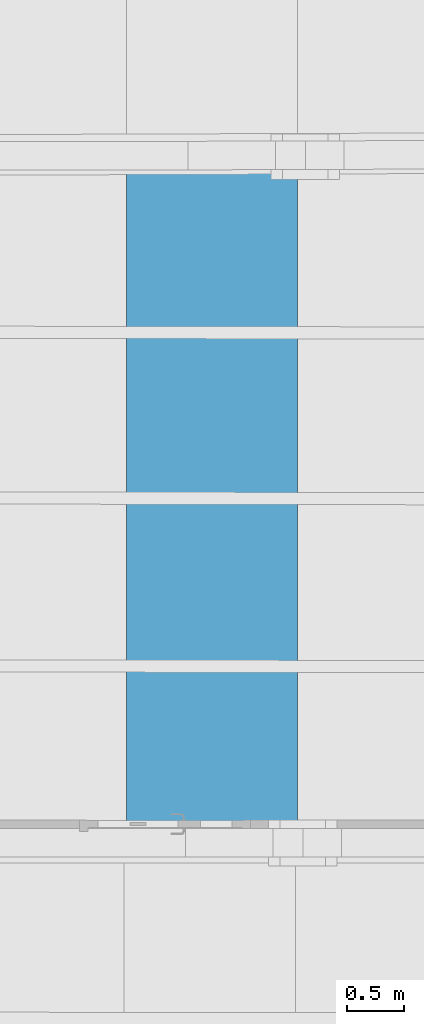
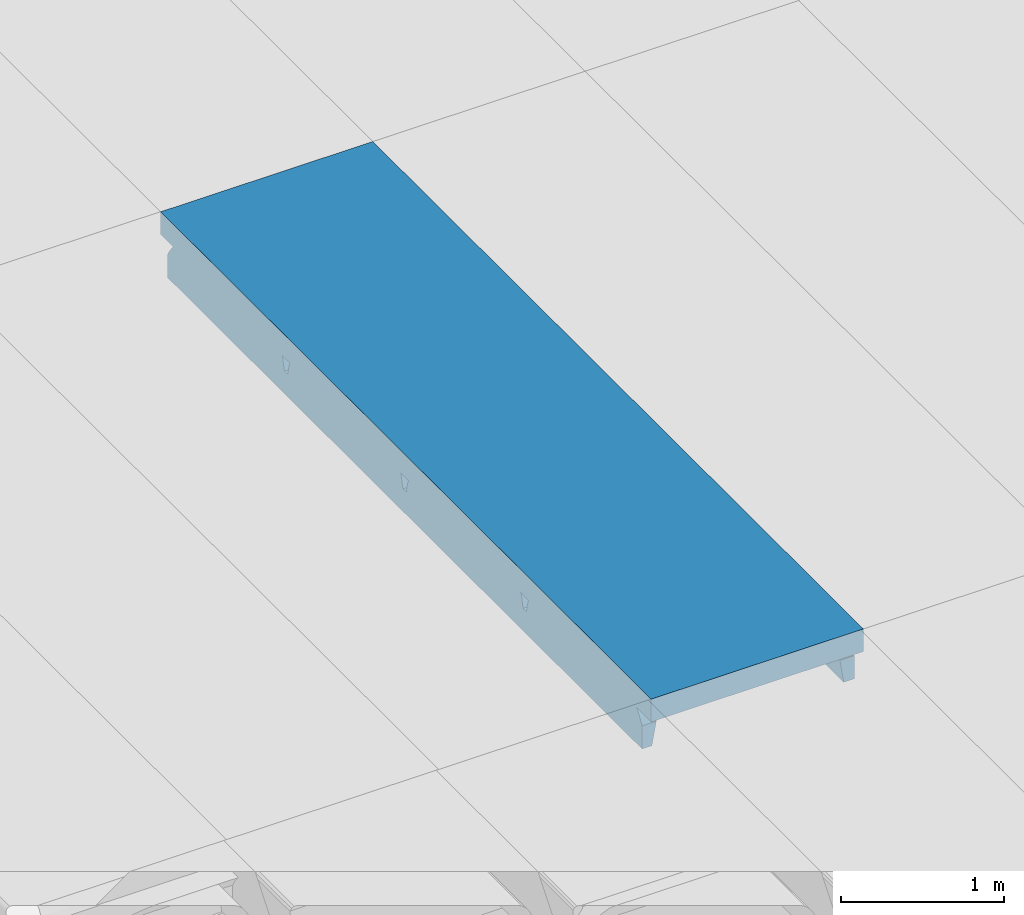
# One storey, part 50 of 301: 1 beam.
"""IFC2X3 building model written with IfcOpenShell, lengths in millimetres."""

from ifc_helpers import new_model, entity, si_unit, converted_unit, derived_unit, money_unit, direction, frame, origin_with_axes, place, context, subcontext, project, spatial, faceted_brep, material, type_object, element, save


model = new_model("IFC2X3")

# Units and contexts
model_context = context("Model", 3, precision=0.01, world=origin_with_axes(), true_north=direction((0.0, 1.0)))
body_context = subcontext(model_context, "Body", "Model", "MODEL_VIEW")
ifc_project = project(units=[si_unit("LENGTHUNIT", "METRE", prefix="MILLI"), si_unit("AREAUNIT", "SQUARE_METRE"), si_unit("VOLUMEUNIT", "CUBIC_METRE"), converted_unit("PLANEANGLEUNIT", "DEGREE", entity("IfcPlaneAngleMeasure", 0.0174532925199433), si_unit("PLANEANGLEUNIT", "RADIAN"), dimensions=[0, 0, 0, 0, 0, 0, 0]), money_unit("EUR"), converted_unit("TIMEUNIT", "Year", entity("IfcTimeMeasure", 31557600.0), si_unit("TIMEUNIT", "SECOND"), dimensions=[0, 0, 1, 0, 0, 0, 0]), si_unit("MASSUNIT", "GRAM", prefix="KILO"), si_unit("THERMODYNAMICTEMPERATUREUNIT", "DEGREE_CELSIUS"), si_unit("LUMINOUSINTENSITYUNIT", "LUMEN"), si_unit("ENERGYUNIT", "JOULE", prefix="MEGA"), derived_unit("THERMALCONDUCTANCEUNIT", [(si_unit("POWERUNIT", "WATT"), 1), (si_unit("LENGTHUNIT", "METRE"), -1), (si_unit("THERMODYNAMICTEMPERATUREUNIT", "KELVIN"), -1)]), derived_unit("SPECIFICHEATCAPACITYUNIT", [(si_unit("ENERGYUNIT", "JOULE"), 1), (si_unit("MASSUNIT", "GRAM", prefix="KILO"), -1), (si_unit("THERMODYNAMICTEMPERATUREUNIT", "KELVIN"), -1)]), derived_unit("MASSDENSITYUNIT", [(si_unit("MASSUNIT", "GRAM", prefix="KILO"), 1), (si_unit("VOLUMEUNIT", "CUBIC_METRE"), -1)])], contexts=[model_context])

# Site, building, storey
site_placement = place(None, frame((0.0, 0.0, 8650.0), z_axis=(0.0, 0.0, 1.0), x_axis=(1.0, 0.0, 0.0)))
site = spatial("IfcSite", under=ifc_project, at=site_placement, Name="43301:001:0844", CompositionType="ELEMENT")
building_placement = place(site_placement, origin_with_axes())
building = spatial("IfcBuilding", under=site, at=building_placement, Name="Kuressaare Ametikooli tuulikute mehaanikute õppekorpus", CompositionType="ELEMENT")
storey_placement = place(building_placement, origin_with_axes())
storey = spatial("IfcBuildingStorey", under=building, at=storey_placement, Name="1.korrus", CompositionType="ELEMENT", Elevation=0.0)

# Beam
ifc_material = material(Name="GENEERILINE - KONSTRUKTRIOON")
beam_type = type_object("IfcBeamType", Name="Precast Double Tee 2 1500 x 440", PredefinedType="NOTDEFINED")
beam_placement = place(storey_placement, frame((94975.87775377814, 56106.04423553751, 7100.0), z_axis=(0.0, 0.0, 1.0), x_axis=(-1.0, 0.0, 0.0)))
element("IfcBeam", 1, at=beam_placement, inside=storey, type_object=beam_type, material=ifc_material, context=body_context, shape_type="Brep", body=[
    faceted_brep([(-750.0, 162.5161317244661, -169.8235046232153), (-750.0, 14.23821210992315, -169.8235046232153), (-750.0, 14.23821210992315, 0.0), (-750.0, 6020.344376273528, 0.0), (-750.0, 6020.344376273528, -169.8234995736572), (-750.0, 5840.800379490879, -169.8234995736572), (-750.0, 5851.762927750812, -181.3563575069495), (-750.0, 5883.435405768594, -222.3718083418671), (-750.0, 5909.027396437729, -267.4324680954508), (-750.0, 5909.027919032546, -440.0001340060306), (-750.0, 94.28815260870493, -440.0001340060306), (-750.0, 94.288675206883, -267.4324731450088), (-750.0, 119.8808307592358, -222.3718133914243), (-750.0, 151.553512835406, -181.3563625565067), (-750.0, 1511.979026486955, -184.1935020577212), (-750.0, 1532.719973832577, -271.7709778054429), (-750.0, 1572.720027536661, -271.7709778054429), (-750.0, 1593.460013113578, -184.1936973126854), (-750.0, 1598.034632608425, -175.3978342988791), (-750.0, 1606.233490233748, -169.8234995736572), (-750.0, 1499.205595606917, -169.8234995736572), (-750.0, 1507.404386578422, -175.3977593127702), (-750.0, 2983.832236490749, -271.7709778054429), (-750.0, 3023.832290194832, -271.7709778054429), (-750.0, 3044.572275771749, -184.1936973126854), (-750.0, 3049.146895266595, -175.3978342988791), (-750.0, 3057.345752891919, -169.8234995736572), (-750.0, 2950.317858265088, -169.8234995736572), (-750.0, 2958.516649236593, -175.3977593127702), (-750.0, 2963.091289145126, -184.1935020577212), (-750.0, 4494.692346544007, -271.7709778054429), (-750.0, 4515.432332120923, -184.1936973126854), (-750.0, 4520.00695161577, -175.3978342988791), (-750.0, 4528.205809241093, -169.8234995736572), (-750.0, 4421.177914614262, -169.8234995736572), (-750.0, 4429.376705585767, -175.3977593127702), (-750.0, 4433.9513454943, -184.1935020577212), (-750.0, 4454.692292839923, -271.7709778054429), (-584.2531439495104, 163.1129015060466, -169.8235046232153), (-584.2531439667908, 14.23821210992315, -169.8235046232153), (750.0, 14.23821210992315, -169.8235046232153), (750.0, 14.23821210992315, 0.0), (586.8200850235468, 14.23821210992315, -169.8235046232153), (750.0, 6020.344376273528, 0.0), (750.0, 6020.344376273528, -169.8234995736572), (586.8200850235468, 6020.344376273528, -169.8234995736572), (-584.2531439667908, 6020.344376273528, -169.8234995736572), (-584.2531439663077, 5840.754104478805, -169.8234995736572), (-604.310838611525, 5844.259905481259, -173.5057932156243), (-617.2693537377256, 5851.72587056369, -181.3563575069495), (-621.7526411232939, 5853.824500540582, -184.072435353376), (-634.3038197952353, 5866.239638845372, -200.1453415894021), (-640.3274701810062, 5881.286233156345, -219.6283094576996), (-640.7591226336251, 5883.404906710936, -222.3718083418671), (-647.8488081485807, 5908.998876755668, -267.4324680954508), (-674.9999969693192, 5909.006979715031, -440.0001340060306), (-674.9999969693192, 94.55818931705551, -440.0001340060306), (-647.848808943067, 94.65646947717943, -267.4324731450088), (-640.7591234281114, 120.2741513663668, -222.3718133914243), (-640.3274701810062, 122.3942761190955, -219.6283094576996), (-634.3038197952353, 137.4609737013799, -200.1453415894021), (-621.7526411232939, 149.9178781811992, -184.072435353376), (-617.2693620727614, 152.0314080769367, -181.3563625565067), (-604.310838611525, 159.5404651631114, -173.5057932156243), (-621.847180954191, 1511.769027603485, -184.1935020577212), (-634.3038197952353, 1515.567309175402, -200.1453415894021), (-640.3274701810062, 1520.19132533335, -219.6283094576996), (-648.5314139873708, 1532.553701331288, -271.7709778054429), (-648.5314139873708, 1572.553755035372, -271.7709778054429), (-640.3274701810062, 1584.888698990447, -219.6283094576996), (-634.3038197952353, 1589.492770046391, -200.1453415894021), (-621.8473334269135, 1593.250014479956, -184.1936973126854), (-621.7526411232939, 1593.312926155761, -184.072435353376), (-607.4339316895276, 1597.801015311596, -175.3978342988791), (-604.310838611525, 1600.578754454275, -173.5057932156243), (-584.2531439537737, 1605.961887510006, -169.8234995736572), (-584.2531439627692, 1498.933992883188, -169.8234995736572), (-604.310838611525, 1504.382890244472, -173.5057932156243), (-607.4338079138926, 1507.170769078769, -175.3977593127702), (-621.7526411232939, 1511.705906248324, -184.072435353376), (-648.5314139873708, 2983.665963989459, -271.7709778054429), (-648.5314139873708, 3023.666017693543, -271.7709778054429), (-640.3274701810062, 3036.000961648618, -219.6283094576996), (-634.3038197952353, 3040.605032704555, -200.1453415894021), (-621.8473334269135, 3044.362277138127, -184.1936973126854), (-621.7526411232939, 3044.425188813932, -184.072435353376), (-607.4339316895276, 3048.913277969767, -175.3978342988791), (-604.310838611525, 3051.691017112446, -173.5057932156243), (-584.2531439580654, 3057.074150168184, -169.8234995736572), (-584.2531439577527, 2950.046255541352, -169.8234995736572), (-604.310838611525, 2955.495152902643, -173.5057932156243), (-607.4338079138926, 2958.28303173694, -175.3977593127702), (-621.7526411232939, 2962.818168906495, -184.072435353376), (-621.8471809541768, 2962.881290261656, -184.1935020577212), (-634.3038197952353, 2966.679571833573, -200.1453415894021), (-640.3274701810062, 2971.303587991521, -219.6283094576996), (-634.3038197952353, 4511.465089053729, -200.1453415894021), (-621.8473334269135, 4515.222333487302, -184.1936973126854), (-648.5314139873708, 4494.526074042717, -271.7709778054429), (-640.3274701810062, 4506.861017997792, -219.6283094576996), (-621.7526411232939, 4515.285245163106, -184.072435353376), (-607.4339316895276, 4519.773334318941, -175.3978342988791), (-604.310838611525, 4522.551073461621, -173.5057932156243), (-584.2531439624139, 4527.934206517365, -169.8234995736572), (-584.2531439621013, 4420.906311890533, -169.8234995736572), (-604.310838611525, 4426.355209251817, -173.5057932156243), (-607.4338079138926, 4429.143088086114, -175.3977593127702), (-621.7526411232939, 4433.678225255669, -184.072435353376), (-621.8471809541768, 4433.74134661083, -184.1935020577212), (-640.3274701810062, 4442.163644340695, -219.6283094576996), (-648.5314139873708, 4454.526020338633, -271.7709778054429), (-634.3038197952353, 4437.539628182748, -200.1453415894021), (586.8200850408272, 167.3293381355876, -169.8235046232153), (586.8200850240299, 5840.427151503, -169.8234995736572), (586.8200850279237, 4526.015215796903, -169.8234995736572), (586.8200850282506, 4418.987321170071, -169.8234995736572), (586.8200850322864, 3055.155159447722, -169.8234995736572), (586.8200850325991, 2948.12726482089, -169.8234995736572), (586.8200850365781, 1604.042896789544, -169.8234995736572), (586.8200850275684, 1497.015002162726, -169.8234995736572), (750.0, 167.9168656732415, -169.8235046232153), (750.0, 156.9542467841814, -181.3563625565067), (750.0, 125.2815647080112, -222.3718133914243), (750.0, 99.68940915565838, -267.4324731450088), (750.0, 99.68888655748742, -440.0001340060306), (750.0, 5908.609132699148, -440.0001340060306), (750.0, 5908.608610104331, -267.4324680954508), (750.0, 5883.016619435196, -222.3718083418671), (750.0, 5851.344141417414, -181.3563575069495), (750.0, 5840.381593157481, -169.8234995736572), (750.0, 1595.576642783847, -175.3978342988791), (750.0, 1591.002023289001, -184.1936973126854), (750.0, 1570.262037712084, -271.7709778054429), (750.0, 1530.261984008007, -271.7709778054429), (750.0, 1509.521036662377, -184.1935020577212), (750.0, 1504.946396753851, -175.3977593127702), (750.0, 1496.747605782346, -169.8234995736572), (750.0, 1603.775500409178, -169.8234995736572), (750.0, 3042.114285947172, -184.1936973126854), (750.0, 3021.374300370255, -271.7709778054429), (750.0, 2981.374246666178, -271.7709778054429), (750.0, 2960.633299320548, -184.1935020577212), (750.0, 2956.058659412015, -175.3977593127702), (750.0, 2947.85986844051, -169.8234995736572), (750.0, 3054.887763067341, -169.8234995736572), (750.0, 3046.688905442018, -175.3978342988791), (750.0, 4492.234356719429, -271.7709778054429), (750.0, 4452.234303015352, -271.7709778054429), (750.0, 4431.493355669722, -184.1935020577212), (750.0, 4426.91871576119, -175.3977593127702), (750.0, 4418.719924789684, -169.8234995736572), (750.0, 4525.747819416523, -169.8234995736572), (750.0, 4517.548961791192, -175.3978342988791), (750.0, 4512.974342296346, -184.1936973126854), (604.4404036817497, 5842.465883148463, -171.9734684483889), (604.4404036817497, 4522.824119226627, -171.9734684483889), (604.4404036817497, 3051.964062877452, -171.9734684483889), (604.4404036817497, 4422.120687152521, -171.9734684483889), (604.4404036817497, 2951.260630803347, -171.9734684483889), (604.4404036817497, 1600.851800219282, -171.9734684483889), (604.4404036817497, 1500.148368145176, -171.9734684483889), (604.4404036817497, 165.3491204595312, -171.9734684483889), (620.1516209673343, 157.5524883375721, -180.2351660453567), (621.1429310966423, 156.4902982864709, -181.3563625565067), (631.9095256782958, 147.1255984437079, -193.5336498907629), (638.1842783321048, 134.3255993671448, -210.1386333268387), (640.409702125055, 124.8869860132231, -222.3718133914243), (648.6070035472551, 99.32434475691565, -267.4324731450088), (680.0000000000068, 99.43685230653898, -440.0001340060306), (680.0000000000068, 5908.628676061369, -440.0001340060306), (648.6070026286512, 5908.636918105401, -267.4324680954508), (640.4097012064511, 5883.047216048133, -222.3718083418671), (621.1429266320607, 5851.380117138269, -181.3563575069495), (638.1842783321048, 5873.601276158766, -210.1386333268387), (631.9095256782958, 5860.780519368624, -193.5336498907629), (620.1516209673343, 5850.314646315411, -180.2351660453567), (620.1516209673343, 1593.273583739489, -180.2351660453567), (623.651571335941, 1591.209065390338, -184.1936973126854), (610.952498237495, 1595.804494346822, -175.3978342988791), (638.1842783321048, 1585.040991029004, -210.1386333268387), (649.3962514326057, 1570.426893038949, -271.7709778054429), (631.9095256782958, 1588.983652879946, -193.5336498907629), (649.3962514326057, 1530.426839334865, -271.7709778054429), (638.1842783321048, 1515.848842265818, -210.1386333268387), (631.9095256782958, 1511.926571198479, -193.5336498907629), (623.651398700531, 1509.72807904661, -184.1935020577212), (610.9523556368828, 1505.174248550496, -175.3977593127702), (620.1516209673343, 1507.675095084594, -180.2351660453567), (649.3962514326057, 3021.53915569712, -271.7709778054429), (623.651571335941, 3042.321328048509, -184.1936973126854), (631.9095256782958, 3040.095915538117, -193.5336498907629), (638.1842783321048, 3036.153253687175, -210.1386333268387), (649.3962514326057, 2981.539101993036, -271.7709778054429), (638.1842783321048, 2966.961104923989, -210.1386333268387), (631.9095256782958, 2963.03883385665, -193.5336498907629), (623.651398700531, 2960.840341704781, -184.1935020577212), (620.1516209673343, 2958.787357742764, -180.2351660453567), (610.952355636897, 2956.286511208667, -175.3977593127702), (610.952498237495, 3046.916757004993, -175.3978342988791), (620.1516209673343, 3044.385846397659, -180.2351660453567), (649.3962514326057, 4492.399212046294, -271.7709778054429), (649.3962514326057, 4452.39915834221, -271.7709778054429), (638.1842783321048, 4437.821161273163, -210.1386333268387), (631.9095256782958, 4433.898890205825, -193.5336498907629), (623.651398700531, 4431.700398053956, -184.1935020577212), (620.1516209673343, 4429.647414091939, -180.2351660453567), (610.952355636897, 4427.146567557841, -175.3977593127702), (610.952498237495, 4517.776813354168, -175.3978342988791), (620.1516209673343, 4515.245902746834, -180.2351660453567), (623.651571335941, 4513.181384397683, -184.1936973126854), (631.9095256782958, 4510.955971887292, -193.5336498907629), (638.1842783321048, 4507.013310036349, -210.1386333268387)], [[[0, 1, 2, 3, 4, 5, 6, 7, 8, 9, 10, 11, 12, 13], [14, 15, 16, 17, 18, 19, 20, 21], [22, 23, 24, 25, 26, 27, 28, 29], [30, 31, 32, 33, 34, 35, 36, 37]], [[38, 39, 1, 0]], [[40, 41, 2, 1, 39, 42]], [[3, 2, 41, 43]], [[4, 3, 43, 44, 45, 46]], [[47, 5, 4, 46]], [[6, 5, 47, 48, 49]], [[49, 50, 51, 52, 53, 7, 6]], [[54, 8, 7, 53]], [[55, 9, 8, 54]], [[10, 9, 55, 56]], [[56, 57, 11, 10]], [[57, 58, 12, 11]], [[12, 58, 59, 60, 61, 62, 13]], [[38, 0, 13, 62, 63]], [[64, 65, 66, 67, 15, 14]], [[16, 15, 67, 68]], [[68, 69, 70, 71, 17, 16]], [[17, 71, 72, 73, 18]], [[18, 73, 74, 75, 19]], [[20, 19, 75, 76]], [[20, 76, 77, 78, 21]], [[21, 78, 79, 64, 14]], [[22, 80, 81, 23]], [[82, 83, 84, 24, 23, 81]], [[84, 85, 86, 25, 24]], [[86, 87, 88, 26, 25]], [[26, 88, 89, 27]], [[89, 90, 91, 28, 27]], [[91, 92, 93, 29, 28]], [[94, 95, 80, 22, 29, 93]], [[96, 97, 31, 30, 98, 99]], [[100, 101, 32, 31, 97]], [[102, 103, 33, 32, 101]], [[103, 104, 34, 33]], [[105, 106, 35, 34, 104]], [[107, 108, 36, 35, 106]], [[109, 110, 37, 36, 108, 111]], [[110, 98, 30, 37]], [[112, 42, 39, 38, 76, 75, 89, 88, 104, 103, 47, 46, 45, 113, 114, 115, 116, 117, 118, 119]], [[43, 41, 40, 120, 121, 122, 123, 124, 125, 126, 127, 128, 129, 44], [130, 131, 132, 133, 134, 135, 136, 137], [138, 139, 140, 141, 142, 143, 144, 145], [146, 147, 148, 149, 150, 151, 152, 153]], [[120, 40, 42, 112]], [[129, 113, 45, 44]], [[48, 47, 103, 102]], [[48, 102, 101, 100, 50, 49]], [[50, 100, 97, 96, 51]], [[52, 51, 96, 99]], [[53, 52, 99, 98, 110, 109, 82, 81, 80, 95, 69, 68, 67, 66, 59, 58, 57, 56, 55, 54]], [[66, 65, 60, 59]], [[79, 61, 60, 65, 64]], [[63, 62, 61, 79, 78, 77]], [[77, 76, 38, 63]], [[94, 70, 69, 95]], [[71, 70, 94, 93, 92, 72]], [[73, 72, 92, 91, 90, 74]], [[89, 75, 74, 90]], [[83, 82, 109, 111]], [[83, 111, 108, 107, 85, 84]], [[85, 107, 106, 105, 87, 86]], [[88, 87, 105, 104]], [[113, 154, 155, 114]], [[151, 150, 115, 114]], [[156, 116, 115, 157]], [[116, 144, 143, 117]], [[158, 159, 118, 117]], [[119, 118, 137, 136]], [[119, 160, 161, 112]], [[112, 161, 162, 163, 121, 120]], [[163, 164, 165, 166, 122, 121]], [[123, 122, 166, 167]], [[124, 123, 167, 168]], [[168, 169, 125, 124]], [[125, 169, 170, 126]], [[126, 170, 171, 127]], [[172, 128, 127, 171, 173, 174]], [[113, 129, 128, 172, 175, 154]], [[176, 177, 131, 130, 178]], [[179, 180, 132, 131, 177, 181]], [[180, 182, 133, 132]], [[134, 133, 182, 183, 184, 185]], [[186, 135, 134, 185, 187]], [[119, 136, 135, 186, 160]], [[159, 178, 130, 137, 118]], [[188, 139, 138, 189, 190, 191]], [[192, 140, 139, 188]], [[140, 192, 193, 194, 195, 141]], [[142, 141, 195, 196, 197]], [[143, 142, 197, 158, 117]], [[198, 145, 144, 116, 156]], [[189, 138, 145, 198, 199]], [[147, 146, 200, 201]], [[201, 202, 203, 204, 148, 147]], [[148, 204, 205, 206, 149]], [[149, 206, 157, 115, 150]], [[152, 151, 114, 155, 207]], [[153, 152, 207, 208, 209]], [[146, 153, 209, 210, 211, 200]], [[175, 208, 207, 155, 154]], [[156, 157, 206, 205, 199, 198]], [[178, 159, 158, 197, 196, 176]], [[187, 162, 161, 160, 186]], [[164, 163, 162, 187, 185, 184]], [[184, 183, 165, 164]], [[202, 201, 200, 211, 173, 171, 170, 169, 168, 167, 166, 165, 183, 182, 180, 179, 193, 192, 188, 191]], [[174, 173, 211, 210]], [[174, 210, 209, 208, 175, 172]], [[177, 176, 196, 195, 194, 181]], [[193, 179, 181, 194]], [[199, 205, 204, 203, 190, 189]], [[191, 190, 203, 202]]]),
])

save(model, "model.ifc")
